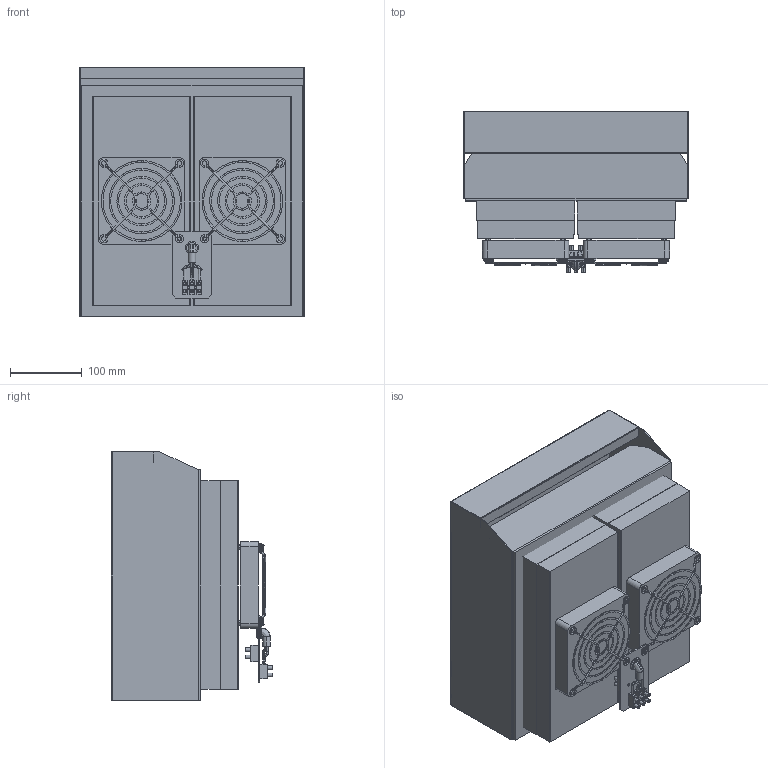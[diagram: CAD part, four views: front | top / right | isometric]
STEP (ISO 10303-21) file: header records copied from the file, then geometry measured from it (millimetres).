
FILE_DESCRIPTION(/* description */ (''),/* implementation_level */ '2;1');
FILE_NAME(/* name */ 'TCU200~1',/* time_stamp */ '2019-08-05T10:16:23+02:00',/* author */ (''),/* organization */ (''),/* preprocessor_version */ 'ST-DEVELOPER v14',/* originating_system */ '',/* authorisation */ '');
FILE_SCHEMA (('CONFIG_CONTROL_DESIGN'));
Length unit declared in the file: millimetre
Products named in the file (1): Document
Bounding box: 312.5 x 224.3 x 347 mm (x, y, z)
Volume: 12020749.6 mm3; surface area: 1465039.9 mm2
Topology: 15 solids, 24 shells, 659 faces, 1741 edges, 1175 vertices
Faces by surface type: bspline 386, plane 273
Entity records: 29906 total; most frequent: CARTESIAN_POINT 19422, ORIENTED_EDGE 3414, EDGE_CURVE 1741, VERTEX_POINT 1175, B_SPLINE_CURVE_WITH_KNOTS 883, EDGE_LOOP 823, ADVANCED_FACE 659, FACE_OUTER_BOUND 659
